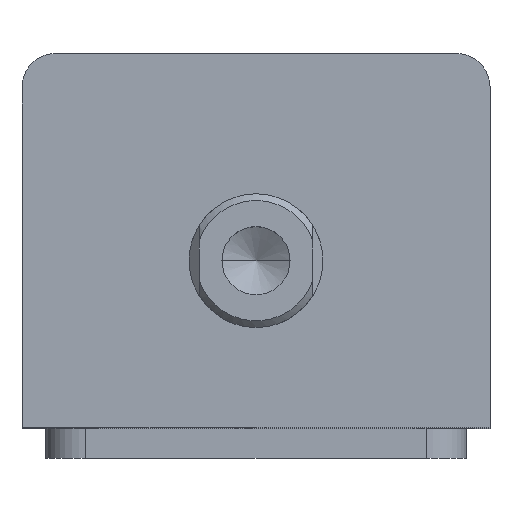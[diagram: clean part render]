
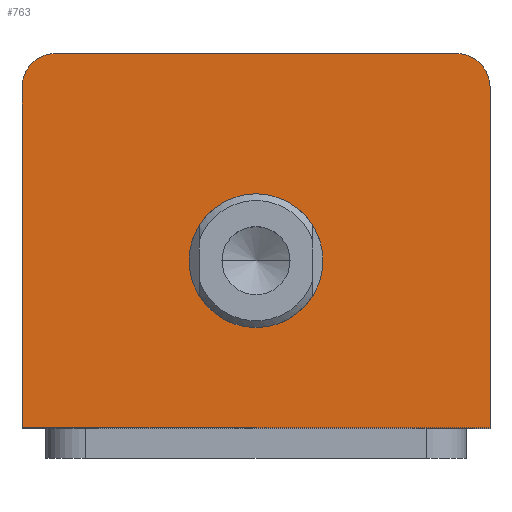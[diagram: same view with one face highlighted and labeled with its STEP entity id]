
A CAD part, top view. The second image highlights one B-rep face of the part: STEP entity #763.
In plain terms, the highlighted planar face has unit normal (0, 0, 1).
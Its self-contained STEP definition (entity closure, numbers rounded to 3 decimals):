
#99 = VERTEX_POINT ( 'NONE', #2454 ) ;
#122 = ORIENTED_EDGE ( 'NONE', *, *, #253, .F. ) ;
#128 = ORIENTED_EDGE ( 'NONE', *, *, #2058, .T. ) ;
#200 = EDGE_CURVE ( 'NONE', #695, #666, #1254, .T. ) ;
#253 = EDGE_CURVE ( 'NONE', #712, #99, #1337, .T. ) ;
#353 = DIRECTION ( 'NONE',  ( -1., 0., 0. ) ) ;
#354 = CARTESIAN_POINT ( 'NONE',  ( -35., 28., 84. ) ) ;
#405 = CARTESIAN_POINT ( 'NONE',  ( 35., 28., 84. ) ) ;
#407 = DIRECTION ( 'NONE',  ( 1., 0., 0. ) ) ;
#408 = DIRECTION ( 'NONE',  ( 0., 0., 1. ) ) ;
#410 = CARTESIAN_POINT ( 'NONE',  ( 0., -3., 84. ) ) ;
#411 = DIRECTION ( 'NONE',  ( 0., 1., 0. ) ) ;
#635 = DIRECTION ( 'NONE',  ( 1., 0., 0. ) ) ;
#636 = DIRECTION ( 'NONE',  ( 0., 0., 1. ) ) ;
#639 = PLANE ( 'NONE',  #1909 ) ;
#647 = CARTESIAN_POINT ( 'NONE',  ( 0., 0., 84. ) ) ;
#666 = VERTEX_POINT ( 'NONE', #1489 ) ;
#689 = VERTEX_POINT ( 'NONE', #1460 ) ;
#695 = VERTEX_POINT ( 'NONE', #1451 ) ;
#696 = VERTEX_POINT ( 'NONE', #1450 ) ;
#697 = VERTEX_POINT ( 'NONE', #1449 ) ;
#711 = VERTEX_POINT ( 'NONE', #1443 ) ;
#712 = VERTEX_POINT ( 'NONE', #1442 ) ;
#763 = ADVANCED_FACE ( 'NONE', ( #2779, #2782 ), #639, .T. ) ;
#813 = LINE ( 'NONE', #354, #817 ) ;
#817 = VECTOR ( 'NONE', #353, 1000. ) ;
#831 = CIRCLE ( 'NONE', #1841, 5. ) ;
#844 = CIRCLE ( 'NONE', #1834, 5. ) ;
#850 = LINE ( 'NONE', #2585, #853 ) ;
#853 = VECTOR ( 'NONE', #2582, 1000. ) ;
#1073 = ORIENTED_EDGE ( 'NONE', *, *, #2015, .T. ) ;
#1082 = ORIENTED_EDGE ( 'NONE', *, *, #2032, .T. ) ;
#1171 = EDGE_LOOP ( 'NONE', ( #2218, #122 ) ) ;
#1181 = EDGE_LOOP ( 'NONE', ( #1073, #2091, #1082, #2080, #128, #2153 ) ) ;
#1254 = LINE ( 'NONE', #2550, #1256 ) ;
#1256 = VECTOR ( 'NONE', #2549, 1000. ) ;
#1337 = CIRCLE ( 'NONE', #1982, 10. ) ;
#1442 = CARTESIAN_POINT ( 'NONE',  ( -10., -3., 84. ) ) ;
#1443 = CARTESIAN_POINT ( 'NONE',  ( -30., 28., 84. ) ) ;
#1449 = CARTESIAN_POINT ( 'NONE',  ( 35., 23., 84. ) ) ;
#1450 = CARTESIAN_POINT ( 'NONE',  ( -35., 23., 84. ) ) ;
#1451 = CARTESIAN_POINT ( 'NONE',  ( -35., -28., 84. ) ) ;
#1460 = CARTESIAN_POINT ( 'NONE',  ( 30., 28., 84. ) ) ;
#1489 = CARTESIAN_POINT ( 'NONE',  ( 35., -28., 84. ) ) ;
#1642 = DIRECTION ( 'NONE',  ( 0., 0., 1. ) ) ;
#1643 = CARTESIAN_POINT ( 'NONE',  ( 0., -3., 84. ) ) ;
#1650 = DIRECTION ( 'NONE',  ( 1., 0., 0. ) ) ;
#1834 = AXIS2_PLACEMENT_3D ( 'NONE', #2592, #3067, #2591 ) ;
#1841 = AXIS2_PLACEMENT_3D ( 'NONE', #2950, #2984, #2982 ) ;
#1862 = AXIS2_PLACEMENT_3D ( 'NONE', #410, #408, #407 ) ;
#1909 = AXIS2_PLACEMENT_3D ( 'NONE', #647, #636, #635 ) ;
#1941 = EDGE_CURVE ( 'NONE', #99, #712, #2866, .T. ) ;
#1982 = AXIS2_PLACEMENT_3D ( 'NONE', #1643, #1642, #1650 ) ;
#2015 = EDGE_CURVE ( 'NONE', #666, #697, #2869, .T. ) ;
#2032 = EDGE_CURVE ( 'NONE', #689, #711, #813, .T. ) ;
#2045 = EDGE_CURVE ( 'NONE', #697, #689, #831, .T. ) ;
#2054 = EDGE_CURVE ( 'NONE', #711, #696, #844, .T. ) ;
#2058 = EDGE_CURVE ( 'NONE', #696, #695, #850, .T. ) ;
#2080 = ORIENTED_EDGE ( 'NONE', *, *, #2054, .T. ) ;
#2091 = ORIENTED_EDGE ( 'NONE', *, *, #2045, .T. ) ;
#2153 = ORIENTED_EDGE ( 'NONE', *, *, #200, .T. ) ;
#2218 = ORIENTED_EDGE ( 'NONE', *, *, #1941, .F. ) ;
#2454 = CARTESIAN_POINT ( 'NONE',  ( 10., -3., 84. ) ) ;
#2549 = DIRECTION ( 'NONE',  ( 1., 0., 0. ) ) ;
#2550 = CARTESIAN_POINT ( 'NONE',  ( -35., -28., 84. ) ) ;
#2582 = DIRECTION ( 'NONE',  ( 0., -1., 0. ) ) ;
#2585 = CARTESIAN_POINT ( 'NONE',  ( -35., 28., 84. ) ) ;
#2591 = DIRECTION ( 'NONE',  ( 1., 0., 0. ) ) ;
#2592 = CARTESIAN_POINT ( 'NONE',  ( -30., 23., 84. ) ) ;
#2779 = FACE_BOUND ( 'NONE', #1171, .T. ) ;
#2782 = FACE_OUTER_BOUND ( 'NONE', #1181, .T. ) ;
#2866 = CIRCLE ( 'NONE', #1862, 10. ) ;
#2869 = LINE ( 'NONE', #405, #2874 ) ;
#2874 = VECTOR ( 'NONE', #411, 1000. ) ;
#2950 = CARTESIAN_POINT ( 'NONE',  ( 30., 23., 84. ) ) ;
#2982 = DIRECTION ( 'NONE',  ( 1., 0., 0. ) ) ;
#2984 = DIRECTION ( 'NONE',  ( 0., 0., 1. ) ) ;
#3067 = DIRECTION ( 'NONE',  ( 0., 0., 1. ) ) ;
